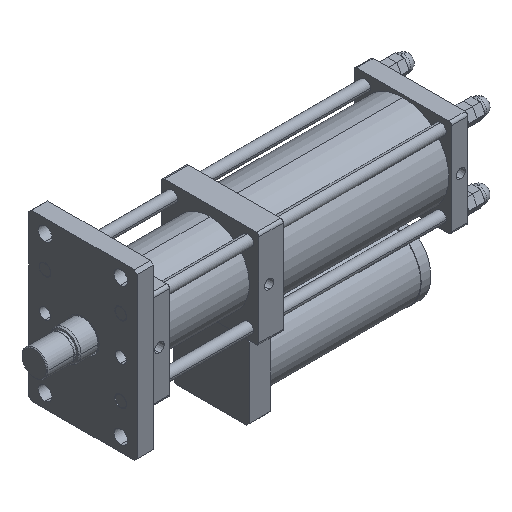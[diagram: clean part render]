
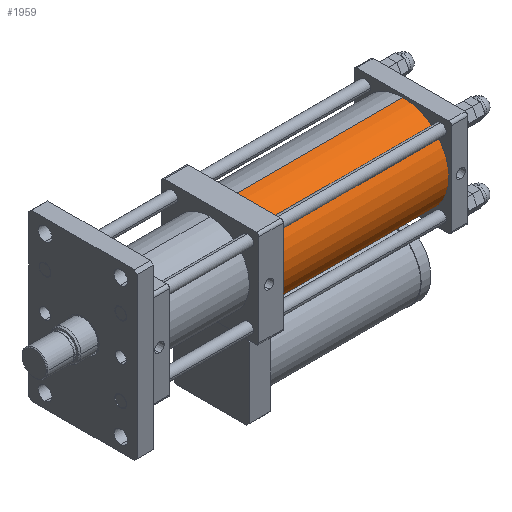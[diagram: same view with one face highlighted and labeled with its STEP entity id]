
A CAD part, isometric view. The second image highlights one B-rep face of the part: STEP entity #1959.
In plain terms, the highlighted cylindrical face has radius 85 mm (diameter 170 mm), a partial arc.
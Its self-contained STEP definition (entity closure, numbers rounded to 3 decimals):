
#220 = EDGE_CURVE ( 'NONE', #7326, #7441, #6396, .T. ) ;
#297 = CARTESIAN_POINT ( 'NONE',  ( 681., 0., 0. ) ) ;
#467 = DIRECTION ( 'NONE',  ( 1., 0., 0. ) ) ;
#910 = AXIS2_PLACEMENT_3D ( 'NONE', #6354, #4253, #4961 ) ;
#1012 = DIRECTION ( 'NONE',  ( 0., 0., -1. ) ) ;
#1035 = DIRECTION ( 'NONE',  ( -1., 0., 0. ) ) ;
#1242 = VERTEX_POINT ( 'NONE', #6230 ) ;
#1306 = ORIENTED_EDGE ( 'NONE', *, *, #220, .T. ) ;
#1648 = EDGE_CURVE ( 'NONE', #8985, #1242, #3260, .T. ) ;
#1950 = DIRECTION ( 'NONE',  ( -1., 0., 0. ) ) ;
#1959 = ADVANCED_FACE ( 'NONE', ( #5780 ), #5558, .T. ) ;
#1979 = CARTESIAN_POINT ( 'NONE',  ( 681., 0., 85. ) ) ;
#2597 = CARTESIAN_POINT ( 'NONE',  ( 370., 0., 85. ) ) ;
#3192 = EDGE_LOOP ( 'NONE', ( #3427, #6445, #1306, #4193 ) ) ;
#3260 = LINE ( 'NONE', #5928, #4912 ) ;
#3427 = ORIENTED_EDGE ( 'NONE', *, *, #1648, .F. ) ;
#4193 = ORIENTED_EDGE ( 'NONE', *, *, #5578, .T. ) ;
#4253 = DIRECTION ( 'NONE',  ( -1., 0., 0. ) ) ;
#4606 = AXIS2_PLACEMENT_3D ( 'NONE', #297, #5205, #1012 ) ;
#4674 = CARTESIAN_POINT ( 'NONE',  ( 370., 0., 0. ) ) ;
#4700 = AXIS2_PLACEMENT_3D ( 'NONE', #4674, #467, #5390 ) ;
#4912 = VECTOR ( 'NONE', #1035, 1000. ) ;
#4961 = DIRECTION ( 'NONE',  ( 0., 0., 1. ) ) ;
#5205 = DIRECTION ( 'NONE',  ( 1., 0., 0. ) ) ;
#5390 = DIRECTION ( 'NONE',  ( 0., 0., -1. ) ) ;
#5538 = CARTESIAN_POINT ( 'NONE',  ( 681., 0., -85. ) ) ;
#5558 = CYLINDRICAL_SURFACE ( 'NONE', #910, 85. ) ;
#5578 = EDGE_CURVE ( 'NONE', #7441, #1242, #5867, .T. ) ;
#5780 = FACE_OUTER_BOUND ( 'NONE', #3192, .T. ) ;
#5867 = CIRCLE ( 'NONE', #4700, 85. ) ;
#5928 = CARTESIAN_POINT ( 'NONE',  ( 681., 0., -85. ) ) ;
#6230 = CARTESIAN_POINT ( 'NONE',  ( 370., 0., -85. ) ) ;
#6354 = CARTESIAN_POINT ( 'NONE',  ( 681., 0., 0. ) ) ;
#6396 = LINE ( 'NONE', #1979, #8005 ) ;
#6445 = ORIENTED_EDGE ( 'NONE', *, *, #8329, .F. ) ;
#7281 = CARTESIAN_POINT ( 'NONE',  ( 681., 0., 85. ) ) ;
#7326 = VERTEX_POINT ( 'NONE', #7281 ) ;
#7441 = VERTEX_POINT ( 'NONE', #2597 ) ;
#8005 = VECTOR ( 'NONE', #1950, 1000. ) ;
#8329 = EDGE_CURVE ( 'NONE', #7326, #8985, #8855, .T. ) ;
#8855 = CIRCLE ( 'NONE', #4606, 85. ) ;
#8985 = VERTEX_POINT ( 'NONE', #5538 ) ;
